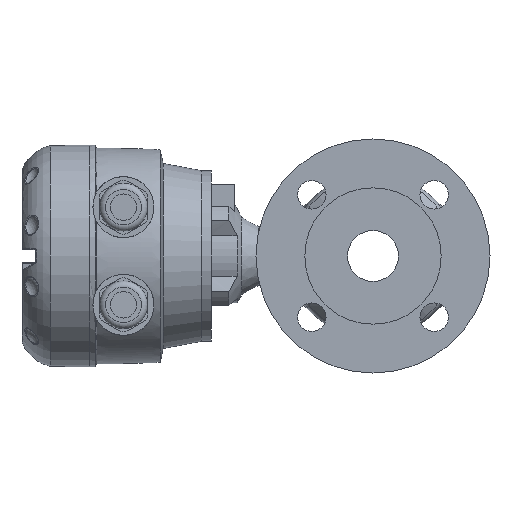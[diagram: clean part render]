
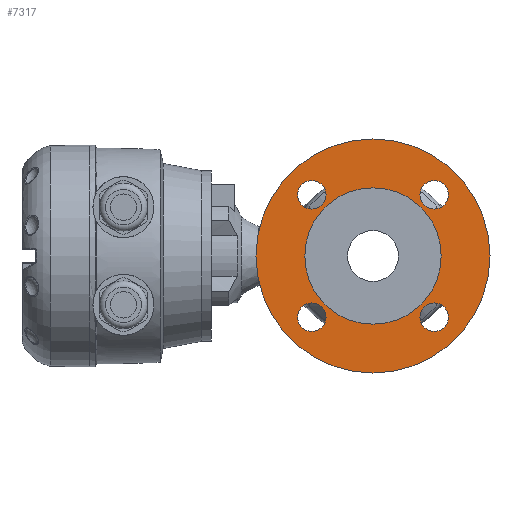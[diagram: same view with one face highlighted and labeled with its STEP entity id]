
A CAD part, left-side view. The second image highlights one B-rep face of the part: STEP entity #7317.
In plain terms, the highlighted planar face has unit normal (-1, 0, 0).
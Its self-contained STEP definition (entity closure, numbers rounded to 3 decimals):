
#471 = EDGE_CURVE ( 'NONE', #15989, #15989, #9374, .T. ) ;
#493 = EDGE_CURVE ( 'NONE', #15999, #15999, #9405, .T. ) ;
#567 = EDGE_CURVE ( 'NONE', #16013, #16013, #9503, .T. ) ;
#579 = EDGE_CURVE ( 'NONE', #16015, #16015, #9518, .T. ) ;
#805 = EDGE_CURVE ( 'NONE', #16061, #16061, #11181, .T. ) ;
#862 = CARTESIAN_POINT ( 'NONE',  ( -65.805, -103.069, -40.595 ) ) ;
#865 = DIRECTION ( 'NONE',  ( -1., 0., 0. ) ) ;
#866 = DIRECTION ( 'NONE',  ( 0., 0., 1. ) ) ;
#917 = CARTESIAN_POINT ( 'NONE',  ( -65.805, -73.017, -10.543 ) ) ;
#919 = DIRECTION ( 'NONE',  ( 1., 0., 0. ) ) ;
#920 = DIRECTION ( 'NONE',  ( 0., 0., -1. ) ) ;
#2189 = CARTESIAN_POINT ( 'NONE',  ( -65.805, -73.017, -10.543 ) ) ;
#2198 = DIRECTION ( 'NONE',  ( 1., 0., 0. ) ) ;
#2199 = DIRECTION ( 'NONE',  ( 0., 0., -1. ) ) ;
#2543 = EDGE_CURVE ( 'NONE', #16087, #16087, #11387, .T. ) ;
#2908 = AXIS2_PLACEMENT_3D ( 'NONE', #7362, #7363, #7335 ) ;
#2925 = AXIS2_PLACEMENT_3D ( 'NONE', #3513, #3522, #3528 ) ;
#2946 = AXIS2_PLACEMENT_3D ( 'NONE', #917, #919, #920 ) ;
#2949 = AXIS2_PLACEMENT_3D ( 'NONE', #862, #865, #866 ) ;
#3037 = AXIS2_PLACEMENT_3D ( 'NONE', #2189, #2198, #2199 ) ;
#3087 = AXIS2_PLACEMENT_3D ( 'NONE', #12790, #12801, #12802 ) ;
#3513 = CARTESIAN_POINT ( 'NONE',  ( -65.805, -103.069, 19.509 ) ) ;
#3522 = DIRECTION ( 'NONE',  ( -1., 0., 0. ) ) ;
#3528 = DIRECTION ( 'NONE',  ( 0., 0., 1. ) ) ;
#3756 = AXIS2_PLACEMENT_3D ( 'NONE', #15637, #15646, #15647 ) ;
#7317 = ADVANCED_FACE ( 'NONE', ( #8717, #8729, #8733, #8737, #8725, #8713 ), #15643, .T. ) ;
#7335 = DIRECTION ( 'NONE',  ( 0., 0., 1. ) ) ;
#7362 = CARTESIAN_POINT ( 'NONE',  ( -65.805, -42.965, 19.509 ) ) ;
#7363 = DIRECTION ( 'NONE',  ( -1., 0., 0. ) ) ;
#8713 = FACE_BOUND ( 'NONE', #13467, .T. ) ;
#8717 = FACE_BOUND ( 'NONE', #13557, .T. ) ;
#8725 = FACE_OUTER_BOUND ( 'NONE', #13459, .T. ) ;
#8729 = FACE_BOUND ( 'NONE', #13507, .T. ) ;
#8733 = FACE_BOUND ( 'NONE', #13498, .T. ) ;
#8734 = ORIENTED_EDGE ( 'NONE', *, *, #471, .F. ) ;
#8737 = FACE_BOUND ( 'NONE', #13503, .T. ) ;
#8738 = ORIENTED_EDGE ( 'NONE', *, *, #493, .F. ) ;
#8742 = ORIENTED_EDGE ( 'NONE', *, *, #567, .F. ) ;
#8746 = ORIENTED_EDGE ( 'NONE', *, *, #2543, .F. ) ;
#8750 = ORIENTED_EDGE ( 'NONE', *, *, #579, .F. ) ;
#8754 = ORIENTED_EDGE ( 'NONE', *, *, #805, .T. ) ;
#9374 = CIRCLE ( 'NONE', #2908, 7. ) ;
#9405 = CIRCLE ( 'NONE', #2925, 7. ) ;
#9503 = CIRCLE ( 'NONE', #2949, 7. ) ;
#9518 = CIRCLE ( 'NONE', #2946, 57.5 ) ;
#11181 = CIRCLE ( 'NONE', #3037, 33.5 ) ;
#11387 = CIRCLE ( 'NONE', #3087, 7. ) ;
#12790 = CARTESIAN_POINT ( 'NONE',  ( -65.805, -42.965, -40.595 ) ) ;
#12801 = DIRECTION ( 'NONE',  ( -1., 0., 0. ) ) ;
#12802 = DIRECTION ( 'NONE',  ( 0., 0., 1. ) ) ;
#13459 = EDGE_LOOP ( 'NONE', ( #8750 ) ) ;
#13467 = EDGE_LOOP ( 'NONE', ( #8754 ) ) ;
#13498 = EDGE_LOOP ( 'NONE', ( #8742 ) ) ;
#13503 = EDGE_LOOP ( 'NONE', ( #8746 ) ) ;
#13507 = EDGE_LOOP ( 'NONE', ( #8738 ) ) ;
#13557 = EDGE_LOOP ( 'NONE', ( #8734 ) ) ;
#15637 = CARTESIAN_POINT ( 'NONE',  ( -65.805, -73.017, -10.543 ) ) ;
#15643 = PLANE ( 'NONE',  #3756 ) ;
#15646 = DIRECTION ( 'NONE',  ( -1., 0., 0. ) ) ;
#15647 = DIRECTION ( 'NONE',  ( 0., 0., -1. ) ) ;
#15989 = VERTEX_POINT ( 'NONE', #15990 ) ;
#15990 = CARTESIAN_POINT ( 'NONE',  ( -65.805, -42.965, 26.509 ) ) ;
#15999 = VERTEX_POINT ( 'NONE', #16000 ) ;
#16000 = CARTESIAN_POINT ( 'NONE',  ( -65.805, -103.069, 26.509 ) ) ;
#16013 = VERTEX_POINT ( 'NONE', #16014 ) ;
#16014 = CARTESIAN_POINT ( 'NONE',  ( -65.805, -103.069, -33.595 ) ) ;
#16015 = VERTEX_POINT ( 'NONE', #16016 ) ;
#16016 = CARTESIAN_POINT ( 'NONE',  ( -65.805, -73.017, -68.043 ) ) ;
#16061 = VERTEX_POINT ( 'NONE', #16062 ) ;
#16062 = CARTESIAN_POINT ( 'NONE',  ( -65.805, -73.017, -44.043 ) ) ;
#16087 = VERTEX_POINT ( 'NONE', #16088 ) ;
#16088 = CARTESIAN_POINT ( 'NONE',  ( -65.805, -42.965, -33.595 ) ) ;
